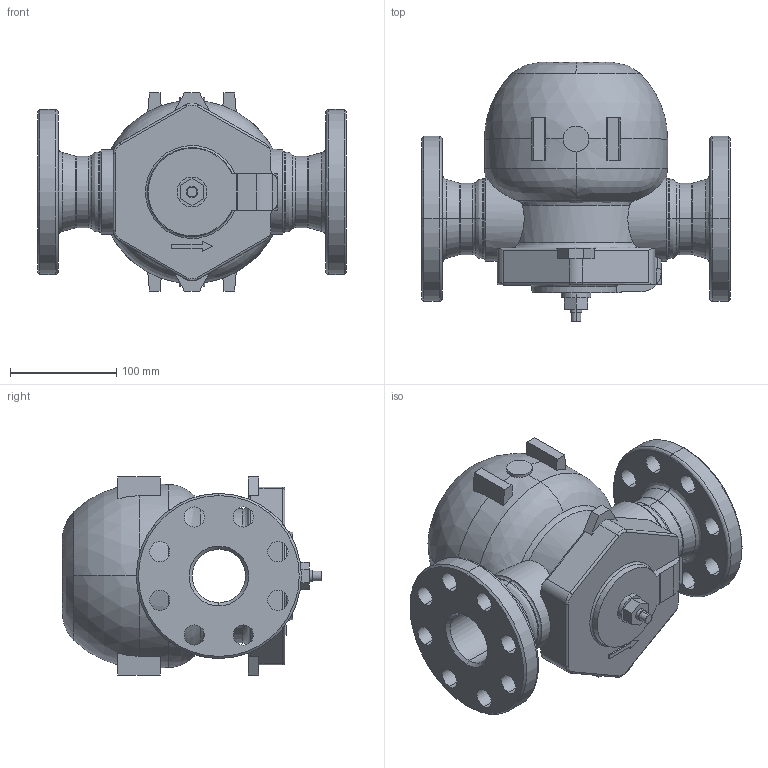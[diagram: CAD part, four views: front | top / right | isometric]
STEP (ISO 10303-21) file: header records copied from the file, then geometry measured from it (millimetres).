
FILE_DESCRIPTION( (''), '2;1');
FILE_NAME ('PC1027.12188.TSF-11F 50A(JIS 20K)_14895.stp','2025-07-31T09:08:27',(''),(''),'spGate 20.6.3 (****-****-****-****)','','');
FILE_SCHEMA (('AUTOMOTIVE_DESIGN'));
Length unit declared in the file: millimetre
Bounding box: 290 x 243.5 x 186 mm (x, y, z)
Volume: 4441777.2 mm3; surface area: 299319.4 mm2
Topology: 1 solids, 1 shells, 215 faces, 557 edges, 352 vertices
Faces by surface type: cylinder 89, plane 74, bspline 50, sphere 2
Entity records: 12298 total; most frequent: CARTESIAN_POINT 2898, ORIENTED_EDGE 1114, DIRECTION 970, COLOUR_RGB 773, PRESENTATION_STYLE_ASSIGNMENT 773, STYLED_ITEM 773, EDGE_CURVE 557, DRAUGHTING_PRE_DEFINED_CURVE_FONT 557
